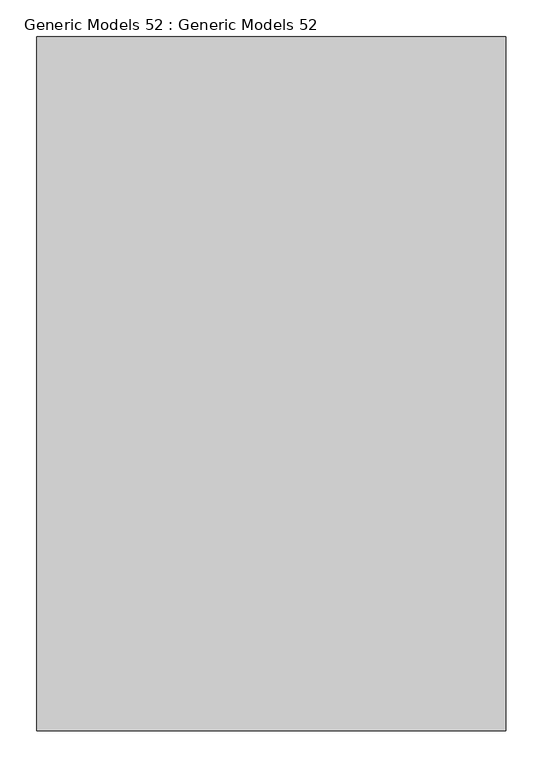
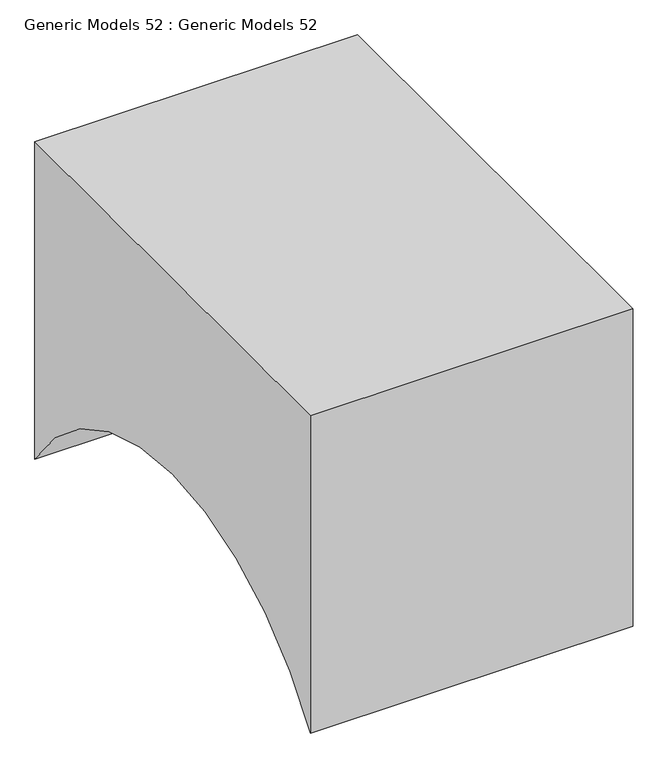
"""IFC4 building model written with IfcOpenShell, lengths in millimetres: proxy geometry, Generic Models 52 : Generic Models 52."""

from ifc_helpers import new_model, si_unit, point, frame, frame_2d, origin, place, context, project, spatial, polyline, circle_curve, trimmed, segment, composite_curve, outline, extrude, source, transform, mapped, element, save


def generic_models_52_generic_models_52_cda593ee(model_context):
    return source(origin(), model_context, "Body", "SweptSolid", [
        extrude(outline(composite_curve([segment(polyline([(6845.1947939, 6299.2), (7784.9947939, 6299.2), (7784.9947939, 5638.8)]), True, "CONTINUOUS"), segment(trimmed(circle_curve(frame_2d((7315.0947939, 5331.1425)), 561.6575), [point((7784.9947939, 5638.8))], [point((6845.1947939, 5638.8))], True, "CARTESIAN"), True, "CONTINUOUS"), segment(polyline([(6845.1947939, 5638.8), (6845.1947939, 6299.2)]), True, "CONTINUOUS")], self_intersect=False)), frame((5435.6, 0.0, 0.0), z_axis=(1.0, 0.0, 0.0), x_axis=(0.0, 1.0, 0.0)), (0.0, 0.0, 1.0), 634.9999991),
    ])


if __name__ == "__main__":
    model = new_model("IFC4")
    model_context = context("Model", 3, world=origin())
    ifc_project = project(units=[si_unit("LENGTHUNIT", "METRE", prefix="MILLI")], contexts=[model_context])
    site = spatial("IfcSite", under=ifc_project)
    building = spatial("IfcBuilding", under=site)
    placement = place(None, origin())
    generic_models_52_generic_models_52_shape = generic_models_52_generic_models_52_cda593ee(model_context)
    element("IfcBuildingElementProxy", 1, Name="Generic Models 52 : Generic Models 52", ObjectType="Generic Models 52 : Generic Models 52", at=placement, inside=building, context=model_context, shape_type="MappedRepresentation", body=[
        mapped(generic_models_52_generic_models_52_shape, transform((0.0, 0.0, 0.0), x_axis=(1.0, 0.0, 0.0), y_axis=(0.0, 1.0, 0.0), z_axis=(0.0, 0.0, 1.0))),
    ])
    save(model, "model.ifc")
